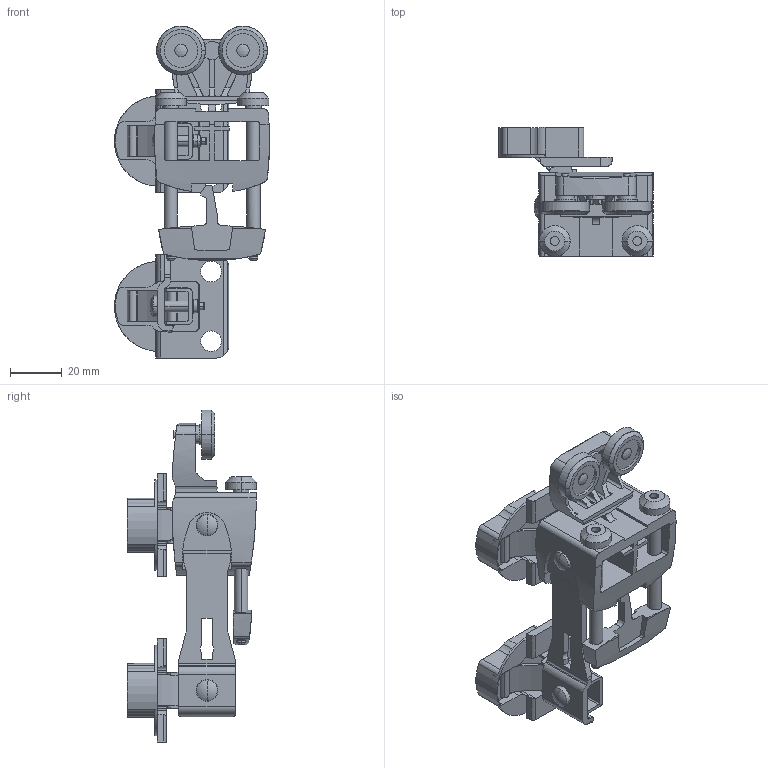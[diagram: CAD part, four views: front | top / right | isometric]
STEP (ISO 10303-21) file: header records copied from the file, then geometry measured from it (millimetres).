
FILE_DESCRIPTION( ( '' ), '1' );
FILE_NAME( 'D:/temp/hettich_stp/hettich/4_folding_sliding/4.4_folding_door/20kg_wl_770-wl_770_alu/wl_770_left/1079971.stp', '2013-02-26T10:21:05', ( '' ), ( '' ), ' ', ' ', ' ' );
FILE_SCHEMA( ( 'automotive_design' ) );
Length unit declared in the file: millimetre
Products named in the file (1): 1
Bounding box: 60.03 x 49.98 x 128.6 mm (x, y, z)
Volume: 56595.3 mm3; surface area: 38652.3 mm2
Topology: 1 solids, 1 shells, 828 faces, 2502 edges, 1651 vertices
Faces by surface type: plane 499, cylinder 283, cone 24, torus 20, sphere 2
Entity records: 56785 total; most frequent: CARTESIAN_POINT 6302, ORIENTED_EDGE 4996, STYLED_ITEM 4978, PRESENTATION_STYLE_ASSIGNMENT 4978, COLOUR_RGB 4978, DIRECTION 4781, EDGE_CURVE 2498, CURVE_STYLE 2498
